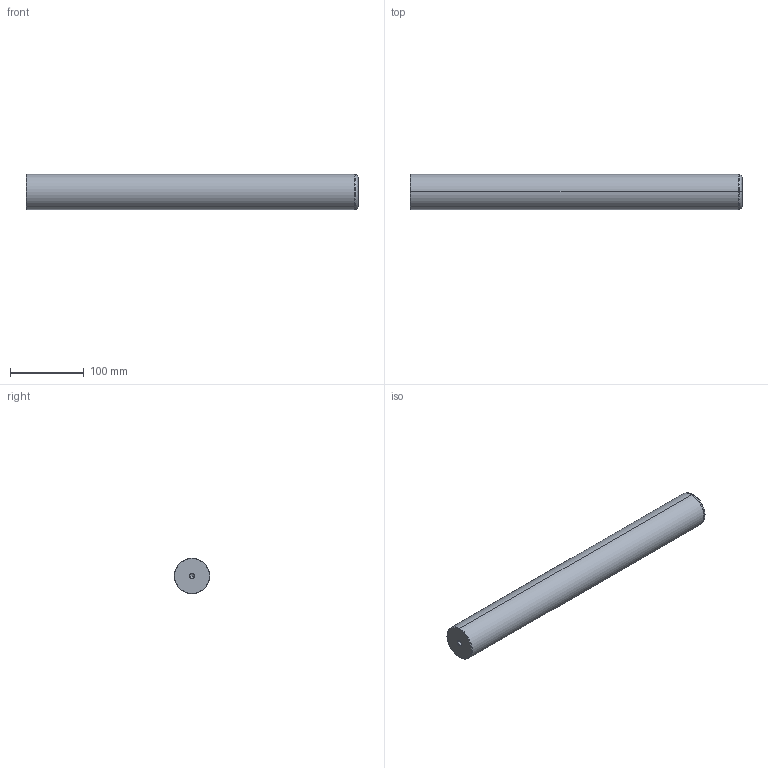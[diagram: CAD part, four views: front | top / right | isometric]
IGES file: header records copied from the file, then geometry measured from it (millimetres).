
Start section: START RECORD GO HERE.
Global section: file name: 720-48x450.igs; native system: DASSAULT SYSTEMES CATIA V5 R20 - www.3ds.com; preprocessor: CATIA Version 5 Release 20 ; author: Utente; organization: NB04-ASUS; date: 20201230.224635; units: millimetre
Bounding box: 450 x 48 x 48 mm (x, y, z)
Surface area: 72085.8 mm2 (no closed solid volume)
Topology: 0 solids, 0 shells, 22 faces, 120 edges, 116 vertices
Faces by surface type: revolution 20, plane 2
